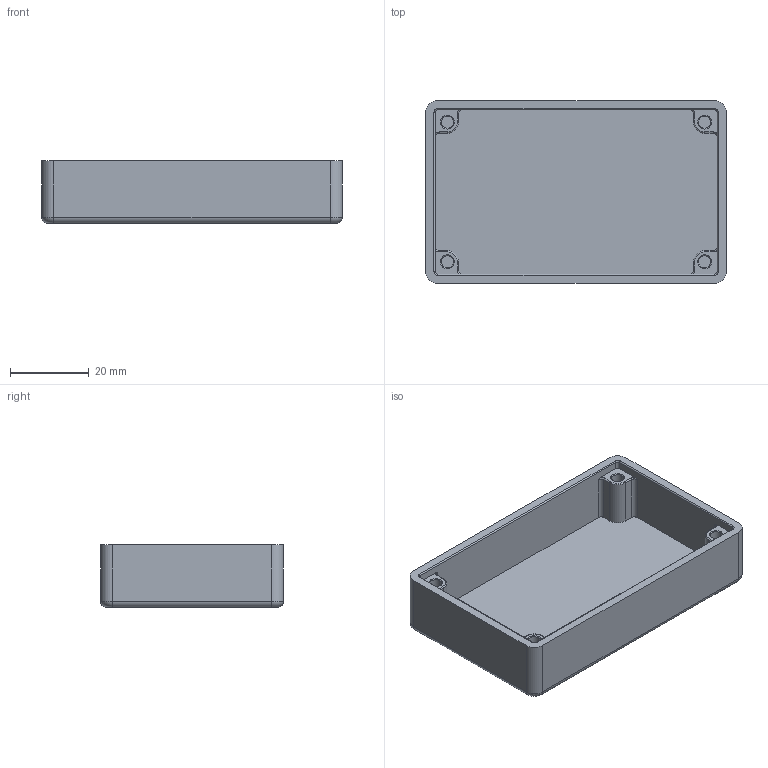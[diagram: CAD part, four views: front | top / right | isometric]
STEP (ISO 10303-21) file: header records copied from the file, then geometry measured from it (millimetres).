
FILE_DESCRIPTION (( 'STEP AP214' ), '1' );
FILE_NAME ('Case Top w Foam.STEP', '2023-02-12T19:01:38', ( '' ), ( '' ), 'SwSTEP 2.0', 'SolidWorks 2022', '' );
FILE_SCHEMA (( 'AUTOMOTIVE_DESIGN' ));
Length unit declared in the file: millimetre
Products named in the file (1): Case Top w Foam
Bounding box: 76.42 x 46.5 x 15.9 mm (x, y, z)
Volume: 14944.7 mm3; surface area: 13993.4 mm2
Topology: 1 solids, 1 shells, 99 faces, 236 edges, 144 vertices
Faces by surface type: cylinder 44, plane 27, torus 20, cone 8
Entity records: 2924 total; most frequent: DIRECTION 544, CARTESIAN_POINT 520, ORIENTED_EDGE 472, EDGE_CURVE 236, AXIS2_PLACEMENT_3D 216, VERTEX_POINT 144, CIRCLE 116, VECTOR 112
